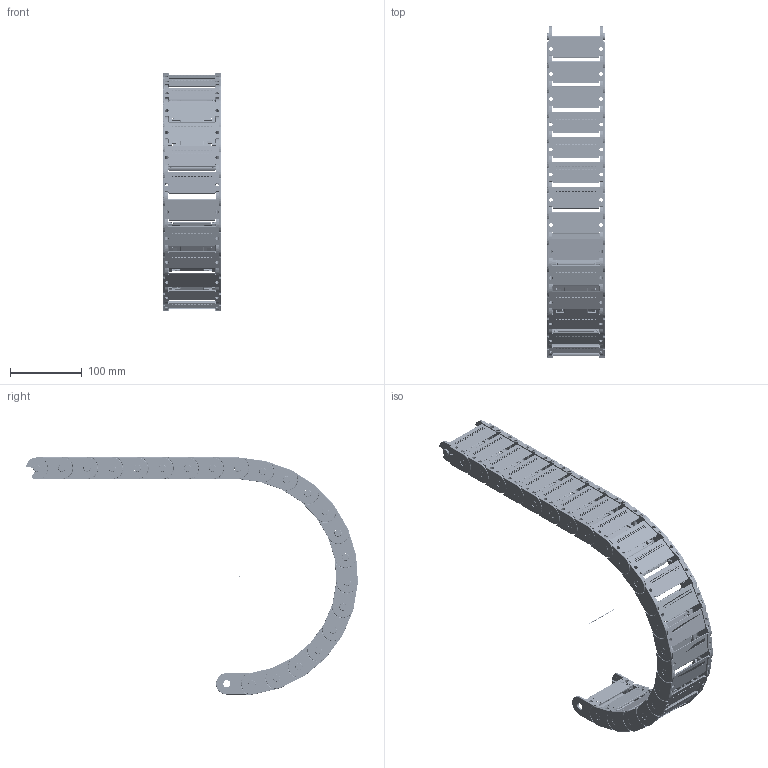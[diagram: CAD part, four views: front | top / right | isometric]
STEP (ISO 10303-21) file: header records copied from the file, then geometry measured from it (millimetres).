
FILE_DESCRIPTION((''),'2;1');
FILE_NAME('C:\Uebbing\PARAMETERKETTEN\KOLIBRI\Kol_30_080_2\Kol_30_080_2_R150.stp','2012-03-05T11:12:42',('Uebbing'),(''),'Autodesk Inventor 10','Autodesk Inventor 10','');
FILE_SCHEMA(('AUTOMOTIVE_DESIGN { 1 0 10303 214 1 1 1 1 }'));
Length unit declared in the file: millimetre
Products named in the file (5): KOLIBRI 30_080_2_PARAMETRISCH; Achse; Kol_30_080_2_Glied; Kol 30_080_2_ Lasche; Kol 30_080_0 Klappsteg
Assembly tree (25 placements, depth 3):
  KOLIBRI 30_080_2_PARAMETRISCH
    Achse
    Kol_30_080_2_Glied  x22
      Kol 30_080_2_ Lasche
      Kol 30_080_0 Klappsteg
Bounding box: 80 x 461.73 x 330 mm (x, y, z)
Volume: 484234.9 mm3; surface area: 393579.2 mm2
Topology: 45 solids, 45 shells, 21145 faces, 57358 edges, 37711 vertices
Faces by surface type: plane 10782, bspline 5918, cylinder 4005, torus 286, cone 88, sphere 66
Full cylindrical faces by diameter (mm): 1 x1, 1.166 x22, 2.048 x22, 2.8 x132, 5.1 x22, 10 x22, 10.1 x22
Entity records: 33437 total; most frequent: CARTESIAN_POINT 10115, ORIENTED_EDGE 5136, DIRECTION 4197, EDGE_CURVE 2568, VERTEX_POINT 1703, VECTOR 1693, LINE 1693, AXIS2_PLACEMENT_3D 1252
